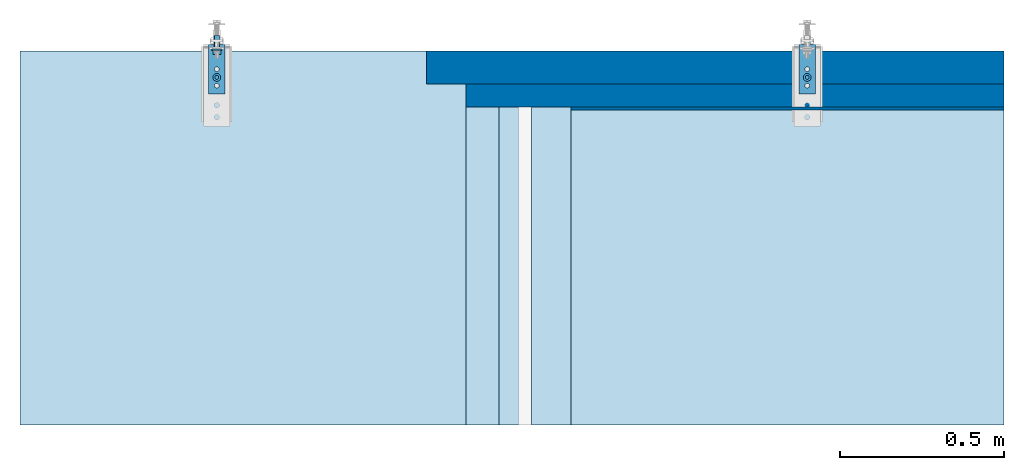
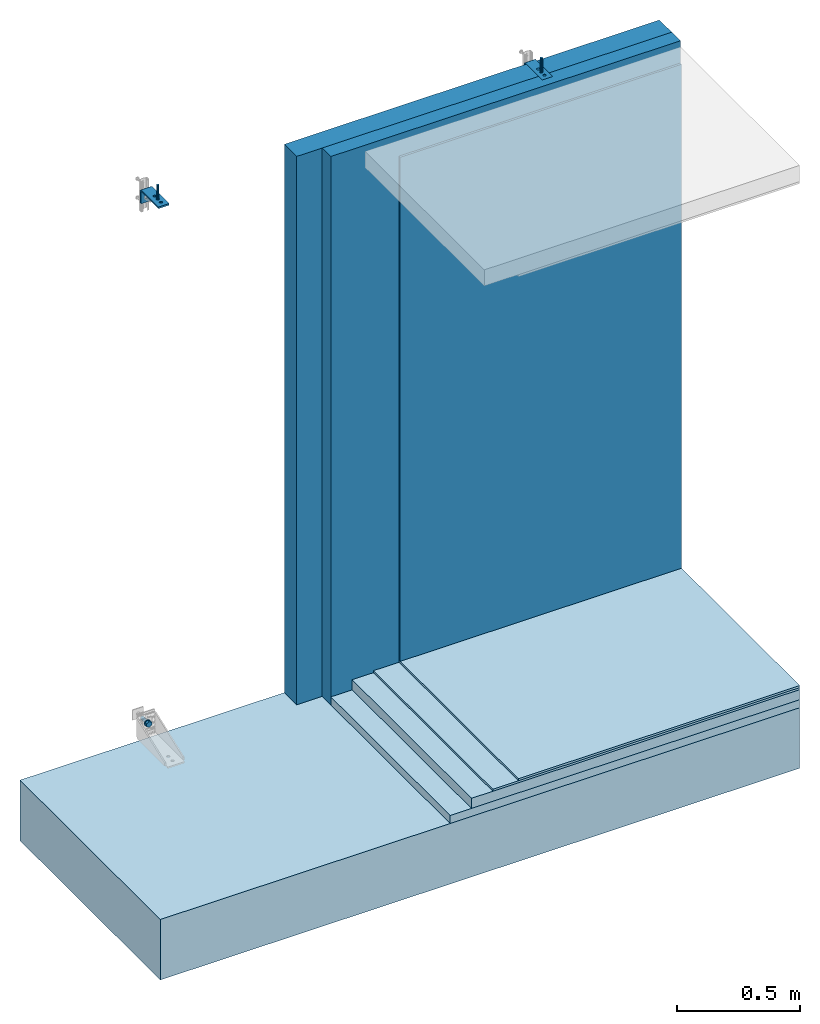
# One storey, part 1 of 7: 6 assemblies, 5 slabs, 3 walls, 8 openings.
"""IFC2X3 building model written with IfcOpenShell, lengths in metres."""

import ifcopenshell
import ifcopenshell.guid

model = None  # the IFC model being written
_history = None  # IfcOwnerHistory: only IFC2X3 demands one
_inside = {}  # id of a spatial element -> (the spatial element, [elements in it])
_under = {}  # id of a project, library or spatial element -> (it, [spatial elements below it])
_declared = {}  # id of a project -> (the project, [libraries it declares])
_typed = {}  # id of a type object -> (the type object, [elements of that type])
_made_of = {}  # id of a material, layer set ... -> (it, [elements and type objects made of it])


def new_model(schema):
    """Start an empty IFC model of exactly this schema.

    Asked for "IFC4X3", IfcOpenShell would pick the latest addendum, in which some entities
    have other attributes; the version numbers below select the first issue.
    IFC2X3 requires an IfcOwnerHistory on every rooted entity: one is made here for all.
    """
    global model, _history
    if schema == "IFC4X3":
        model = ifcopenshell.file(schema_version=(4, 3, 0, 0))
    else:
        model = ifcopenshell.file(schema=schema)
    _inside.clear()
    _under.clear()
    _declared.clear()
    _typed.clear()
    _made_of.clear()
    _history = None
    if model.schema == "IFC2X3":
        org = make("IfcOrganization", Name="unknown")
        user = make(
            "IfcPersonAndOrganization",
            ThePerson=make("IfcPerson", FamilyName="unknown"),
            TheOrganization=org,
        )
        app = make(
            "IfcApplication",
            ApplicationDeveloper=org,
            Version="unknown",
            ApplicationFullName="unknown",
            ApplicationIdentifier="unknown",
        )
        _history = make(
            "IfcOwnerHistory",
            OwningUser=user,
            OwningApplication=app,
            ChangeAction="ADDED",
            CreationDate=0,
        )
    return model


def make(cls, **values):
    """One entity of the class cls with the attributes given. An attribute that is None is left unset."""
    return model.create_entity(
        cls, **{name: value for name, value in values.items() if value is not None}
    )


def entity(cls, *values):
    """Any entity or typed value of the class cls, its attributes in the order of the schema. None: left unset."""
    e = model.create_entity(cls)
    for i, value in enumerate(values):
        if value is not None:
            e[i] = value
    return e


def rooted(cls, **values):
    """An entity with a GlobalId (a new one), such as an element, a storey or a relation."""
    return make(cls, GlobalId=ifcopenshell.guid.new(), OwnerHistory=_history, **values)


def si_unit(unit_type, name, prefix=None):
    """IfcSIUnit, for example si_unit("LENGTHUNIT", "METRE", prefix="MILLI")."""
    return make("IfcSIUnit", UnitType=unit_type, Prefix=prefix, Name=name)


def converted_unit(unit_type, name, factor, base, dimensions=None, offset=None):
    """IfcConversionBasedUnit, such as the inch: factor (a typed value) times the base unit."""
    return make(
        "IfcConversionBasedUnit"
        if offset is None
        else "IfcConversionBasedUnitWithOffset",
        ConversionOffset=offset,
        Dimensions=None
        if dimensions is None
        else entity("IfcDimensionalExponents", *dimensions),
        UnitType=unit_type,
        Name=name,
        ConversionFactor=make(
            "IfcMeasureWithUnit", ValueComponent=factor, UnitComponent=base
        ),
    )


def derived_unit(unit_type, elements):
    """IfcDerivedUnit: a product of units, each with its exponent."""
    return make(
        "IfcDerivedUnit",
        Elements=[
            make("IfcDerivedUnitElement", Unit=unit, Exponent=power)
            for unit, power in elements
        ],
        UnitType=unit_type,
    )


def assignment(units):
    """IfcUnitAssignment: the units of a project."""
    return None if units is None else make("IfcUnitAssignment", Units=units)


def point(xyz):
    """IfcCartesianPoint."""
    return None if xyz is None else make("IfcCartesianPoint", Coordinates=xyz)


def direction(xyz):
    """IfcDirection."""
    return None if xyz is None else make("IfcDirection", DirectionRatios=xyz)


def frame(location, z_axis=None, x_axis=None):
    """IfcAxis2Placement3D, a coordinate frame: its origin and axes. An axis left out is left unset."""
    return make(
        "IfcAxis2Placement3D",
        Location=point(location),
        Axis=direction(z_axis),
        RefDirection=direction(x_axis),
    )


def frame_2d(location, x_axis=None):
    """IfcAxis2Placement2D, a coordinate frame in the plane: its origin and x axis."""
    return make(
        "IfcAxis2Placement2D", Location=point(location), RefDirection=direction(x_axis)
    )


def origin():
    """The frame at (0, 0, 0) with its axes left unset."""
    return frame((0.0, 0.0, 0.0))


def origin_2d_with_axis():
    """The frame at (0, 0) in the plane with the x axis (1, 0) written out."""
    return frame_2d((0.0, 0.0), x_axis=(1.0, 0.0))


def place(relative_to, where):
    """IfcLocalPlacement: puts the frame where relative to a parent placement (None: the world)."""
    return make(
        "IfcLocalPlacement", PlacementRelTo=relative_to, RelativePlacement=where
    )


def context(
    kind, dimensions, precision=None, world=None, true_north=None, identifier=None
):
    """IfcGeometricRepresentationContext, for example the 3D "Model" context."""
    return make(
        "IfcGeometricRepresentationContext",
        ContextIdentifier=identifier,
        ContextType=kind,
        CoordinateSpaceDimension=dimensions,
        Precision=precision,
        WorldCoordinateSystem=world,
        TrueNorth=true_north,
    )


def subcontext(parent, identifier, kind, view, scale=None):
    """IfcGeometricRepresentationSubContext, for example "Body" below "Model"."""
    return make(
        "IfcGeometricRepresentationSubContext",
        ContextIdentifier=identifier,
        ContextType=kind,
        ParentContext=parent,
        TargetScale=scale,
        TargetView=view,
    )


def project(units=None, contexts=None):
    """IfcProject with its units and contexts."""
    return rooted(
        "IfcProject",
        Name="project",
        RepresentationContexts=contexts,
        UnitsInContext=assignment(units),
    )


def spatial(cls, under=None, at=None, **own):
    """A site, building, storey or space (cls), placed at a placement, below another one or the project."""
    s = rooted(cls, ObjectPlacement=at, **own)
    if under is not None:
        _under.setdefault(under.id(), (under, []))[1].append(s)
    return s


def polyline(points):
    """IfcPolyline through the points."""
    return make("IfcPolyline", Points=[point(p) for p in points])


def circle_curve(where, radius):
    """IfcCircle in the frame where."""
    return make("IfcCircle", Position=where, Radius=radius)


def parameter(value):
    """IfcParameterValue: where a trimmed curve begins or ends, as a parameter of its basis curve."""
    return model.create_entity("IfcParameterValue", value)


def trimmed(basis, trim1, trim2, sense, master):
    """IfcTrimmedCurve: the piece of a basis curve between two trims."""
    return make(
        "IfcTrimmedCurve",
        BasisCurve=basis,
        Trim1=trim1,
        Trim2=trim2,
        SenseAgreement=sense,
        MasterRepresentation=master,
    )


def segment(curve, same_sense, transition):
    """IfcCompositeCurveSegment."""
    return make(
        "IfcCompositeCurveSegment",
        Transition=transition,
        SameSense=same_sense,
        ParentCurve=curve,
    )


def composite_curve(segments, self_intersect=None):
    """IfcCompositeCurve: segments joined end to end."""
    return make("IfcCompositeCurve", Segments=segments, SelfIntersect=self_intersect)


def profile(cls, at=None, kind="AREA", **sizes):
    """A parametric profile (cls). Its sizes go by their IFC names, for example OverallWidth=200.0."""
    return make(cls, ProfileType=kind, Position=at, **sizes)


def rectangle(**sizes):
    """IfcRectangleProfileDef."""
    return profile("IfcRectangleProfileDef", **sizes)


def circle(**sizes):
    """IfcCircleProfileDef."""
    return profile("IfcCircleProfileDef", **sizes)


def hollow_circle(**sizes):
    """IfcCircleHollowProfileDef."""
    return profile("IfcCircleHollowProfileDef", **sizes)


def outline(outer, holes=None, kind="AREA"):
    """IfcArbitraryClosedProfileDef: a profile drawn as a closed curve; with holes, ...WithVoids."""
    if holes is None:
        return make("IfcArbitraryClosedProfileDef", ProfileType=kind, OuterCurve=outer)
    return make(
        "IfcArbitraryProfileDefWithVoids",
        ProfileType=kind,
        OuterCurve=outer,
        InnerCurves=holes,
    )


def extrude(swept, where, along, depth):
    """IfcExtrudedAreaSolid: the profile swept, set in the frame where, extruded along a direction by depth."""
    return make(
        "IfcExtrudedAreaSolid",
        SweptArea=swept,
        Position=where,
        ExtrudedDirection=direction(along),
        Depth=depth,
    )


def shape(context_of_items, identifier, shape_type, items):
    """IfcShapeRepresentation: the items that make up one representation, for example the "Body"."""
    return make(
        "IfcShapeRepresentation",
        ContextOfItems=context_of_items,
        RepresentationIdentifier=identifier,
        RepresentationType=shape_type,
        Items=items,
    )


def source(mapping_origin, context_of_items, identifier, shape_type, items):
    """IfcRepresentationMap: a shape defined once, which mapped items show again and again."""
    return make(
        "IfcRepresentationMap",
        MappingOrigin=mapping_origin,
        MappedRepresentation=shape(context_of_items, identifier, shape_type, items),
    )


def transform(
    local_origin,
    x_axis=None,
    y_axis=None,
    z_axis=None,
    scale=None,
    scale2=None,
    scale3=None,
    uniform=True,
):
    """IfcCartesianTransformationOperator3D, or its non-uniform kind. x_axis, y_axis, z_axis: its Axis1, 2, 3."""
    if uniform:
        return make(
            "IfcCartesianTransformationOperator3D",
            Axis1=direction(x_axis),
            Axis2=direction(y_axis),
            LocalOrigin=point(local_origin),
            Scale=scale,
            Axis3=direction(z_axis),
        )
    return make(
        "IfcCartesianTransformationOperator3DnonUniform",
        Axis1=direction(x_axis),
        Axis2=direction(y_axis),
        LocalOrigin=point(local_origin),
        Scale=scale,
        Axis3=direction(z_axis),
        Scale2=scale2,
        Scale3=scale3,
    )


def mapped(mapping_source, mapping_target):
    """IfcMappedItem: shows the shape of a source again, moved by a transform."""
    return make(
        "IfcMappedItem", MappingSource=mapping_source, MappingTarget=mapping_target
    )


def material(Name=None, Category=None):
    """IfcMaterial."""
    return make("IfcMaterial", Name=Name, Category=Category)


def layer(
    of_material, thickness, ventilated=None, Name=None, Category=None, Priority=None
):
    """IfcMaterialLayer: one layer of a wall or slab, of a material (None: an air gap)."""
    return make(
        "IfcMaterialLayer",
        Material=of_material,
        LayerThickness=thickness,
        IsVentilated=ventilated,
        Name=Name,
        Category=Category,
        Priority=Priority,
    )


def layer_set(layers, Name=None):
    """IfcMaterialLayerSet."""
    return make("IfcMaterialLayerSet", MaterialLayers=layers, LayerSetName=Name)


def layer_usage(for_layer_set, set_direction, sense, offset, extent=None):
    """IfcMaterialLayerSetUsage: how a layer set lies in its element."""
    return make(
        "IfcMaterialLayerSetUsage",
        ForLayerSet=for_layer_set,
        LayerSetDirection=set_direction,
        DirectionSense=sense,
        OffsetFromReferenceLine=offset,
        ReferenceExtent=extent,
    )


def made_of(thing, what):
    """Note that an element or type object is made of a material, layer set ...; save() writes the relation."""
    if what is not None:
        _made_of.setdefault(what.id(), (what, []))[1].append(thing)
    return thing


def type_object(cls, material=None, **own):
    """A type object (cls), such as IfcWallType, which elements share."""
    return made_of(rooted(cls, **own), material)


def type_shapes(of_type, sources):
    """Give a type object the sources (RepresentationMaps) that its elements show as mapped items."""
    of_type.RepresentationMaps = sources


def element(
    cls,
    number,
    at=None,
    inside=None,
    cuts=None,
    type_object=None,
    material=None,
    context=None,
    identifier="Body",
    shape_type=None,
    held_by="IfcProductDefinitionShape",
    body=None,
    shapes=None,
    **own,
):
    """One element of the class cls, such as IfcWall. Its Tag is "e" and its number.

    at: its placement. inside: the storey or other place that contains it. cuts: it is an
    opening in that element (IfcRelVoidsElement). A single representation is given by context,
    identifier, shape_type and body (its items); several are given by shapes. held_by: the class
    of the entity that holds the representations. save() writes the other relations.
    """
    e = rooted(cls, Tag="e%d" % number, ObjectPlacement=at, **own)
    if body is not None:
        shapes = [shape(context, identifier, shape_type, body)]
    if shapes is not None:
        e.Representation = make(held_by, Representations=shapes)
    if inside is not None:
        _inside.setdefault(inside.id(), (inside, []))[1].append(e)
    if cuts is not None:
        rooted(
            "IfcRelVoidsElement", RelatingBuildingElement=cuts, RelatedOpeningElement=e
        )
    if type_object is not None:
        _typed.setdefault(type_object.id(), (type_object, []))[1].append(e)
    return made_of(e, material)


def aggregate(whole, parts):
    """IfcRelAggregates: a whole, such as a stair, and the parts it consists of."""
    return rooted("IfcRelAggregates", RelatingObject=whole, RelatedObjects=parts)


def save(model, path):
    """Write the relations noted so far, then the file.

    IfcRelAggregates (storeys below a building ...), IfcRelContainedInSpatialStructure (elements
    in a storey), IfcRelDefinesByType, IfcRelAssociatesMaterial and IfcRelDeclares: one each for
    every whole, place, type object, material and project.
    """
    for whole, parts in _under.values():
        aggregate(whole, parts)
    for where, things in _inside.values():
        rooted(
            "IfcRelContainedInSpatialStructure",
            RelatedElements=things,
            RelatingStructure=where,
        )
    for kind, things in _typed.values():
        rooted("IfcRelDefinesByType", RelatedObjects=things, RelatingType=kind)
    for what, things in _made_of.values():
        rooted("IfcRelAssociatesMaterial", RelatedObjects=things, RelatingMaterial=what)
    for by, libraries in _declared.values():
        rooted("IfcRelDeclares", RelatingContext=by, RelatedDefinitions=libraries)
    model.write(path)


model = new_model("IFC2X3")

# Units and contexts
model_context = context("Model", 3, precision=1e-05, world=origin(), true_north=direction((6.123031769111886e-17, 1.0)))
body_context = subcontext(model_context, "Body", "Model", "MODEL_VIEW")
ifc_project = project(units=[si_unit("LENGTHUNIT", "METRE"), si_unit("AREAUNIT", "SQUARE_METRE"), converted_unit("PLANEANGLEUNIT", "DEGREE", entity("IfcPlaneAngleMeasure", 0.017453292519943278), si_unit("PLANEANGLEUNIT", "RADIAN"), dimensions=[0, 0, 0, 0, 0, 0, 0]), si_unit("VOLUMEUNIT", "CUBIC_METRE"), derived_unit("THERMALTRANSMITTANCEUNIT", [(si_unit("MASSUNIT", "GRAM", prefix="KILO"), 1), (si_unit("THERMODYNAMICTEMPERATUREUNIT", "KELVIN"), -1), (si_unit("TIMEUNIT", "SECOND"), -3)]), derived_unit("USERDEFINED", [(si_unit("MASSUNIT", "GRAM", prefix="KILO"), 1), (si_unit("THERMODYNAMICTEMPERATUREUNIT", "KELVIN"), -1), (si_unit("TIMEUNIT", "SECOND"), -2)]), derived_unit("THERMALRESISTANCEUNIT", [(si_unit("MASSUNIT", "GRAM", prefix="KILO"), -1), (si_unit("TIMEUNIT", "SECOND"), 3), (si_unit("THERMODYNAMICTEMPERATUREUNIT", "KELVIN"), 1)]), derived_unit("MASSDENSITYUNIT", [(si_unit("MASSUNIT", "GRAM", prefix="KILO"), 1), (si_unit("LENGTHUNIT", "METRE"), -3)]), derived_unit("VAPORPERMEABILITYUNIT", [(si_unit("LENGTHUNIT", "METRE"), -1), (si_unit("TIMEUNIT", "SECOND"), 1)]), derived_unit("USERDEFINED", [(si_unit("MASSUNIT", "GRAM", prefix="KILO"), 1), (si_unit("TIMEUNIT", "SECOND"), -3), (si_unit("LENGTHUNIT", "METRE"), 3), (si_unit("ELECTRICCURRENTUNIT", "AMPERE"), -2)]), si_unit("PRESSUREUNIT", "PASCAL")], contexts=[model_context])

# Site, building, storey
site_placement = place(None, origin())
site = spatial("IfcSite", under=ifc_project, at=site_placement, Name="Default", CompositionType="ELEMENT")
building_placement = place(site_placement, origin())
building = spatial("IfcBuilding", under=site, at=building_placement, CompositionType="ELEMENT")
storey_placement = place(building_placement, origin())
storey = spatial("IfcBuildingStorey", under=building, at=storey_placement, Name="L0", CompositionType="ELEMENT", Elevation=0.0)

# Slabs
ifc_material_1 = material(Name="DPG_Losa Principal Obra")
ifc_layer_1 = layer(ifc_material_1, 0.30000000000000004)
ifc_layer_set_1 = layer_set([ifc_layer_1], Name="Suelo:DPG_Losa Principal Obra")
ifc_layer_usage_1 = layer_usage(ifc_layer_set_1, "AXIS3", "POSITIVE", 0.0)
slab_type_1 = type_object("IfcSlabType", Name="Suelo:DPG_Losa Principal Obra", PredefinedType="FLOOR", material=ifc_layer_set_1)
slab_1_placement = place(storey_placement, origin())
element("IfcSlab", 1, at=slab_1_placement, inside=storey, type_object=slab_type_1, material=ifc_layer_usage_1, Name="Suelo:DPG_Losa Principal Obra", ObjectType="Suelo:DPG_Losa Principal Obra", PredefinedType="FLOOR", context=body_context, shape_type="SweptSolid", body=[
    extrude(rectangle(XDim=1.140000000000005, YDim=3.0000000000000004, at=origin_2d_with_axis()), frame((6.3877202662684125, 15.364530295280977, 0.0), z_axis=(0.0, 0.0, -1.0), x_axis=(0.0, 1.0, 0.0)), (0.0, 0.0, 1.0), 0.30000000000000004),
])
ifc_material_2 = material(Name="Lana de roca")
ifc_layer_2 = layer(ifc_material_2, 0.04)
ifc_layer_set_2 = layer_set([ifc_layer_2], Name="Suelo:DPG_Aislamiento Suelo")
ifc_layer_usage_2 = layer_usage(ifc_layer_set_2, "AXIS3", "POSITIVE", 0.0)
slab_type_2 = type_object("IfcSlabType", Name="Suelo:DPG_Aislamiento Suelo", PredefinedType="FLOOR", material=ifc_layer_set_2)
slab_2_placement = place(storey_placement, origin())
element("IfcSlab", 2, at=slab_2_placement, inside=storey, type_object=slab_type_2, material=ifc_layer_usage_2, Name="Suelo:DPG_Aislamiento Suelo", ObjectType="Suelo:DPG_Aislamiento Suelo", PredefinedType="FLOOR", context=body_context, shape_type="SweptSolid", body=[
    extrude(rectangle(XDim=0.9699999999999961, YDim=1.6399999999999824, at=origin_2d_with_axis()), frame((7.067720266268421, 15.279530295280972, 0.04), z_axis=(0.0, 0.0, -1.0), x_axis=(0.0, 1.0, 0.0)), (0.0, 0.0, 1.0), 0.04),
])
ifc_material_3 = material(Name="Hormigón, ligero")
ifc_layer_3 = layer(ifc_material_3, 0.05)
ifc_layer_set_3 = layer_set([ifc_layer_3], Name="Suelo:DPG_Recrecido")
ifc_layer_usage_3 = layer_usage(ifc_layer_set_3, "AXIS3", "POSITIVE", 0.0)
slab_type_3 = type_object("IfcSlabType", Name="Suelo:DPG_Recrecido", PredefinedType="FLOOR", material=ifc_layer_set_3)
slab_3_placement = place(storey_placement, origin())
element("IfcSlab", 3, at=slab_3_placement, inside=storey, type_object=slab_type_3, material=ifc_layer_usage_3, Name="Suelo:DPG_Recrecido", ObjectType="Suelo:DPG_Recrecido", PredefinedType="FLOOR", context=body_context, shape_type="SweptSolid", body=[
    extrude(rectangle(XDim=0.9699999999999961, YDim=1.5399999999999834, at=origin_2d_with_axis()), frame((7.11772026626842, 15.279530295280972, 0.09), z_axis=(0.0, 0.0, -1.0), x_axis=(0.0, 1.0, 0.0)), (0.0, 0.0, 1.0), 0.05),
])
ifc_material_4 = material(Name="Hormigón - Hormigón moldeado in situ")
ifc_layer_4 = layer(ifc_material_4, 0.01)
ifc_layer_set_4 = layer_set([ifc_layer_4], Name="Suelo:DPG_Pegamento cemento")
ifc_layer_usage_4 = layer_usage(ifc_layer_set_4, "AXIS3", "POSITIVE", 0.0)
slab_type_4 = type_object("IfcSlabType", Name="Suelo:DPG_Pegamento cemento", PredefinedType="FLOOR", material=ifc_layer_set_4)
slab_4_placement = place(storey_placement, origin())
element("IfcSlab", 4, at=slab_4_placement, inside=storey, type_object=slab_type_4, material=ifc_layer_usage_4, Name="Suelo:DPG_Pegamento cemento", ObjectType="Suelo:DPG_Pegamento cemento", PredefinedType="FLOOR", context=body_context, shape_type="SweptSolid", body=[
    extrude(rectangle(XDim=0.969999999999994, YDim=1.4399999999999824, at=frame_2d((1.0824674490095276e-15, 0.0), x_axis=(1.0, 0.0))), frame((7.167720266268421, 15.27953029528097, 0.09999999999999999), z_axis=(0.0, 0.0, -1.0), x_axis=(0.0, 1.0, 0.0)), (0.0, 0.0, 1.0), 0.009999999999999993),
])
ifc_material_5 = material(Name="Azulejo, porcelana, 6 pulg.")
ifc_layer_5 = layer(ifc_material_5, 0.01)
ifc_layer_set_5 = layer_set([ifc_layer_5], Name="Suelo:DPG_Ceramica")
ifc_layer_usage_5 = layer_usage(ifc_layer_set_5, "AXIS3", "POSITIVE", 0.0)
slab_type_5 = type_object("IfcSlabType", Name="Suelo:DPG_Ceramica", PredefinedType="FLOOR", material=ifc_layer_set_5)
slab_5_placement = place(storey_placement, origin())
element("IfcSlab", 5, at=slab_5_placement, inside=storey, type_object=slab_type_5, material=ifc_layer_usage_5, Name="Suelo:DPG_Ceramica", ObjectType="Suelo:DPG_Ceramica", PredefinedType="FLOOR", context=body_context, shape_type="SweptSolid", body=[
    extrude(rectangle(XDim=0.9699999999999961, YDim=1.3199999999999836, at=origin_2d_with_axis()), frame((7.22772026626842, 15.279530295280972, 0.10999999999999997), z_axis=(0.0, 0.0, -1.0), x_axis=(0.0, 1.0, 0.0)), (0.0, 0.0, 1.0), 0.009999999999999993),
])

# Walls
ifc_layer_6 = layer(ifc_material_2, 0.1)
ifc_layer_set_6 = layer_set([ifc_layer_6], Name="Muro básico:DPG_Aislamiento")
ifc_layer_usage_6 = layer_usage(ifc_layer_set_6, "AXIS2", "NEGATIVE", 0.05)
wall_type_1 = type_object("IfcWallType", Name="Muro básico:DPG_Aislamiento", PredefinedType="STANDARD", material=ifc_layer_set_6)
wall_1_placement = place(storey_placement, frame((6.12772026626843, 15.884530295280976, 0.0)))
element("IfcWallStandardCase", 6, at=wall_1_placement, inside=storey, type_object=wall_type_1, material=ifc_layer_usage_6, Name="Muro básico:DPG_Aislamiento", ObjectType="Muro básico:DPG_Aislamiento", context=body_context, shape_type="SweptSolid", body=[
    extrude(rectangle(XDim=1.759999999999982, YDim=0.09999999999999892, at=frame_2d((0.879999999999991, 2.0816681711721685e-16), x_axis=(-1.0, 0.0))), origin(), (0.0, 0.0, 1.0), 2.7199999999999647),
])
ifc_material_6 = material(Name="Ladrillo, común, marrón")
ifc_layer_7 = layer(ifc_material_6, 0.07)
ifc_layer_set_7 = layer_set([ifc_layer_7], Name="Muro básico:DPG_Ladrillo")
ifc_layer_usage_7 = layer_usage(ifc_layer_set_7, "AXIS2", "NEGATIVE", 0.035)
wall_type_2 = type_object("IfcWallType", Name="Muro básico:DPG_Ladrillo", PredefinedType="STANDARD", material=ifc_layer_set_7)
wall_2_placement = place(storey_placement, frame((6.24772026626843, 15.799530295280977, 0.0)))
element("IfcWallStandardCase", 7, at=wall_2_placement, inside=storey, type_object=wall_type_2, material=ifc_layer_usage_7, Name="Muro básico:DPG_Ladrillo", ObjectType="Muro básico:DPG_Ladrillo", context=body_context, shape_type="SweptSolid", body=[
    extrude(rectangle(XDim=1.6399999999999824, YDim=0.07000000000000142, at=frame_2d((0.8199999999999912, -7.806255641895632e-16), x_axis=(-1.0, 0.0))), origin(), (0.0, 0.0, 1.0), 2.72),
])
ifc_material_7 = material(Name="Enlucido")
ifc_layer_8 = layer(ifc_material_7, 0.01)
ifc_layer_set_8 = layer_set([ifc_layer_8], Name="Muro básico:DPG_Enlucido")
ifc_layer_usage_8 = layer_usage(ifc_layer_set_8, "AXIS2", "NEGATIVE", 0.005000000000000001)
wall_type_3 = type_object("IfcWallType", Name="Muro básico:DPG_Enlucido", PredefinedType="STANDARD", material=ifc_layer_set_8)
wall_3_placement = place(storey_placement, frame((6.567720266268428, 15.759530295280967, 0.1099999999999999)))
element("IfcWallStandardCase", 8, at=wall_3_placement, inside=storey, type_object=wall_type_3, material=ifc_layer_usage_8, Name="Muro básico:DPG_Enlucido", ObjectType="Muro básico:DPG_Enlucido", context=body_context, shape_type="SweptSolid", body=[
    extrude(rectangle(XDim=1.3199999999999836, YDim=0.010000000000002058, at=frame_2d((0.6599999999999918, 0.0), x_axis=(-1.0, 0.0))), origin(), (0.0, 0.0, 1.0), 2.5),
])

# Assemblies
ifc_material_8 = material(Name="REC_Acero, S 275JR (Zincado)")
type_product_1 = type_object("IfcTypeProduct", Name="REC-A-M16:A-M16", material=ifc_material_8)
shared_shape_1 = source(origin(), body_context, "Body", "SweptSolid", [
    extrude(hollow_circle(Radius=0.015, WallThickness=0.006499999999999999, at=frame_2d((1.062573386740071e-19, -2.4233168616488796e-17), x_axis=(1.0, 0.0))), origin(), (0.0, 0.0, 1.0), 0.003),
])
type_shapes(type_product_1, [shared_shape_1])
assembly_1_placement = place(storey_placement, frame((5.487720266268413, 15.939905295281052, 0.07200000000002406), z_axis=(0.0, -1.0, 0.0), x_axis=(1.0, 0.0, 0.0)))
element("IfcElementAssembly", 9, at=assembly_1_placement, inside=storey, type_object=type_product_1, material=ifc_material_8, Name="REC-A-M16:A-M16", ObjectType="REC-A-M16:A-M16", AssemblyPlace="NOTDEFINED", PredefinedType="NOTDEFINED", context=body_context, shape_type="MappedRepresentation", body=[
    mapped(shared_shape_1, transform((0.0, 0.0, 0.0), scale=1.0)),
])
type_product_2 = type_object("IfcTypeProduct", Name="REC-M16-45:M16-45", material=ifc_material_8)
shared_shape_2 = source(origin(), body_context, "Body", "SweptSolid", [
    extrude(outline(polyline([(-0.0070686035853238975, -0.012243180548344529), (0.007068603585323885, -0.012243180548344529), (0.014137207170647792, 0.0), (0.007068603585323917, 0.012243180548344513), (-0.007068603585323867, 0.012243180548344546), (-0.014137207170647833, 0.0), (-0.0070686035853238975, -0.012243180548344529)])), origin(), (0.0, 0.0, 1.0), 0.013000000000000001),
    extrude(circle(Radius=0.008, at=frame_2d((-5.2874371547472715e-19, -1.2924356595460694e-17), x_axis=(1.0, 0.0))), frame((0.0, 0.0, -0.045000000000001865)), (0.0, 0.0, 1.0), 0.045000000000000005),
])
type_shapes(type_product_2, [shared_shape_2])
assembly_2_placement = place(storey_placement, frame((5.4877202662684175, 15.936905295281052, 0.07200000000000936), z_axis=(0.0, -1.0, 0.0), x_axis=(0.0, 0.0, 1.0)))
element("IfcElementAssembly", 10, at=assembly_2_placement, inside=storey, type_object=type_product_2, material=ifc_material_8, Name="REC-M16-45:M16-45", ObjectType="REC-M16-45:M16-45", AssemblyPlace="NOTDEFINED", PredefinedType="NOTDEFINED", context=body_context, shape_type="MappedRepresentation", body=[
    mapped(shared_shape_2, transform((0.0, 0.0, 0.0), scale=1.0)),
])
type_product_3 = type_object("IfcTypeProduct", Name="REC-AEM12-100:AEM12-100", material=ifc_material_8)
shared_shape_3 = source(origin(), body_context, "Body", "SweptSolid", [
    extrude(outline(polyline([(-0.005890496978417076, -0.010202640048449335), (0.005890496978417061, -0.010202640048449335), (0.01178099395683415, 0.0), (0.005890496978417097, 0.010202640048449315), (-0.0058904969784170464, 0.010202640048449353), (-0.011780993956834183, 0.0), (-0.005890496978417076, -0.010202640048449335)]), holes=[composite_curve([segment(trimmed(circle_curve(frame_2d((6.043164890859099e-09, 0.0), x_axis=(1.0, 0.0)), 0.005999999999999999), [parameter(3.053332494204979e-13)], [parameter(180.0)], True, "PARAMETER"), False, "CONTINUOUS"), segment(trimmed(circle_curve(frame_2d((6.043164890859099e-09, 0.0), x_axis=(1.0, 0.0)), 0.005999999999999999), [parameter(179.99999999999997)], [parameter(0.0)], True, "PARAMETER"), False, "CONTINUOUS")], self_intersect=False)]), frame((-6.043164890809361e-09, 0.0, 0.002399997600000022)), (0.0, 0.0, 1.0), 0.009600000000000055),
    extrude(hollow_circle(Radius=0.011999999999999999, WallThickness=0.004999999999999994, at=frame_2d((1.062573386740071e-19, -1.9386534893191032e-17), x_axis=(1.0, 0.0))), origin(), (0.0, 0.0, 1.0), 0.002399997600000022),
    extrude(circle(Radius=0.006, at=frame_2d((1.3218592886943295e-19, -9.69326744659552e-18), x_axis=(1.0, 0.0))), frame((0.0, 0.0, -0.05)), (0.0, 0.0, 1.0), 0.07),
    extrude(circle(Radius=0.006, at=frame_2d((1.3218592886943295e-19, -9.69326744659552e-18), x_axis=(1.0, 0.0))), frame((0.0, 0.0, -0.08)), (0.0, 0.0, 1.0), 0.027000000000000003),
    extrude(circle(Radius=0.005, at=frame_2d((1.3218592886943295e-19, -8.077722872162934e-18), x_axis=(1.0, 0.0))), frame((0.0, 0.0, -0.053)), (0.0, 0.0, 1.0), 0.002999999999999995),
])
type_shapes(type_product_3, [shared_shape_3])
assembly_3_placement = place(storey_placement, frame((5.487720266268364, 15.854530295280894, 2.711999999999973), z_axis=(0.0, 0.0, -1.0), x_axis=(-1.0, 0.0, 0.0)))
element("IfcElementAssembly", 11, at=assembly_3_placement, inside=storey, type_object=type_product_3, material=ifc_material_8, Name="REC-AEM12-100:AEM12-100", ObjectType="REC-AEM12-100:AEM12-100", AssemblyPlace="NOTDEFINED", PredefinedType="NOTDEFINED", context=body_context, shape_type="MappedRepresentation", body=[
    mapped(shared_shape_3, transform((0.0, 0.0, 0.0), scale=1.0)),
])
type_product_4 = type_object("IfcTypeProduct", Name="REC-AEM12-100:AEM12-100", material=ifc_material_8)
shared_shape_4 = source(origin(), body_context, "Body", "SweptSolid", [
    extrude(outline(polyline([(-0.005890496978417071, -0.01020264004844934), (0.005890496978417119, -0.01020264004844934), (0.01178099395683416, 0.0), (0.005890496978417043, 0.010202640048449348), (-0.0058904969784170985, 0.010202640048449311), (-0.011780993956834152, 0.0), (-0.005890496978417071, -0.01020264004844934)]), holes=[composite_curve([segment(trimmed(circle_curve(frame_2d((-3.0215824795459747e-09, 5.2335342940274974e-09), x_axis=(-0.49999999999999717, 0.8660254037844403)), 0.005999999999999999), [parameter(0.0)], [parameter(180.00000000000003)], True, "PARAMETER"), False, "CONTINUOUS"), segment(trimmed(circle_curve(frame_2d((-3.0215824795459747e-09, 5.2335342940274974e-09), x_axis=(-0.49999999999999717, 0.8660254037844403)), 0.005999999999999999), [parameter(180.0)], [parameter(359.9999999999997)], True, "PARAMETER"), False, "CONTINUOUS")], self_intersect=False)]), frame((-6.04316488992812e-09, 0.0, 0.002399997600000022), z_axis=(0.0, 0.0, 1.0), x_axis=(-0.4999999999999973, -0.8660254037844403, 0.0)), (0.0, 0.0, 1.0), 0.009600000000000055),
    extrude(hollow_circle(Radius=0.011999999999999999, WallThickness=0.004999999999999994, at=frame_2d((1.062573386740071e-19, -5.4025493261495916e-17), x_axis=(1.0, 0.0))), origin(), (0.0, 0.0, 1.0), 0.002399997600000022),
    extrude(circle(Radius=0.006, at=frame_2d((1.3218592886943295e-19, -2.7012746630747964e-17), x_axis=(1.0, 0.0))), frame((0.0, 0.0, -0.05)), (0.0, 0.0, 1.0), 0.07),
    extrude(circle(Radius=0.006, at=frame_2d((1.3218592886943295e-19, -2.7012746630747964e-17), x_axis=(1.0, 0.0))), frame((0.0, 0.0, -0.08)), (0.0, 0.0, 1.0), 0.027000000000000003),
    extrude(circle(Radius=0.005, at=frame_2d((1.3218592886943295e-19, -2.251062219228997e-17), x_axis=(1.0, 0.0))), frame((0.0, 0.0, -0.053)), (0.0, 0.0, 1.0), 0.002999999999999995),
])
type_shapes(type_product_4, [shared_shape_4])
assembly_4_placement = place(storey_placement, frame((7.28772026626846, 15.854530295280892, 2.7120000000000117), z_axis=(0.0, 0.0, -1.0), x_axis=(1.0, 0.0, 0.0)))
element("IfcElementAssembly", 12, at=assembly_4_placement, inside=storey, type_object=type_product_4, material=ifc_material_8, Name="REC-AEM12-100:AEM12-100", ObjectType="REC-AEM12-100:AEM12-100", AssemblyPlace="NOTDEFINED", PredefinedType="NOTDEFINED", context=body_context, shape_type="MappedRepresentation", body=[
    mapped(shared_shape_4, transform((0.0, 0.0, 0.0), scale=1.0)),
])

# Assembly, openings
type_product_5 = type_object("IfcTypeProduct", Name="REC-PAA150708T14:PAA150708T14", material=ifc_material_8)
shared_shape_5 = source(origin(), body_context, "Body", "SweptSolid", [
    extrude(outline(polyline([(-0.0007712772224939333, -0.01619336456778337), (-0.057656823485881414, -0.0048781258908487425), (-0.05921754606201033, -0.012724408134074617), (-0.0023319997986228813, -0.02403964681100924), (0.0005526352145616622, -0.02425790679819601), (0.003405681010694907, -0.023779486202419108), (0.0060613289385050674, -0.02263218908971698), (0.008365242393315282, -0.020882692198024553), (0.010183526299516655, -0.018632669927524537), (0.011565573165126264, -0.015681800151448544), (0.03870097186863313, 0.12073706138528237), (0.030854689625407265, 0.12229778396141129), (0.003932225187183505, -0.013050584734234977), (0.003334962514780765, -0.01449250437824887), (0.002231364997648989, -0.015596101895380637), (0.0007894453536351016, -0.016193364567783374), (-0.0007712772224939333, -0.01619336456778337)])), frame((-0.024999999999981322, 0.014402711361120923, 0.024032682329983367), z_axis=(-1.0, 0.0, 0.0), x_axis=(0.0, -0.9807852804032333, 0.19509032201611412)), (0.0, 0.0, -1.0), 0.04999999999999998),
])
type_shapes(type_product_5, [shared_shape_5])
assembly_5_placement = place(storey_placement, frame((5.4877202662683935, 15.954530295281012, 2.719999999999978), z_axis=(0.0, -1.0, 0.0), x_axis=(-1.0, 0.0, 0.0)))
assembly_5 = element("IfcElementAssembly", 13, at=assembly_5_placement, inside=storey, type_object=type_product_5, material=ifc_material_8, Name="REC-PAA150708T14:PAA150708T14", ObjectType="REC-PAA150708T14:PAA150708T14", AssemblyPlace="NOTDEFINED", PredefinedType="NOTDEFINED", context=body_context, shape_type="MappedRepresentation", body=[
    mapped(shared_shape_5, transform((0.0, 0.0, 0.0), scale=1.0)),
])
opening_1_placement = place(storey_placement, frame((5.4877202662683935, 15.954530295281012, 2.719999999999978)))
element("IfcOpeningElement", 14, at=opening_1_placement, cuts=assembly_5, Name="REC-PAA150708T14:PAA150708T14:1", ObjectType="Opening", context=body_context, shape_type="SweptSolid", body=[
    extrude(circle(Radius=0.007, at=frame_2d((0.0, 2.133174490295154e-17), x_axis=(1.0, 0.0))), frame((0.0, 0.0, -0.04500000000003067), z_axis=(0.0, -1.0, 0.0), x_axis=(0.0, 0.0, 1.0)), (0.0, 0.0, 1.0), 0.008000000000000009),
])
opening_2_placement = place(storey_placement, frame((5.4877202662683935, 15.954530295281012, 2.719999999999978)))
element("IfcOpeningElement", 15, at=opening_2_placement, cuts=assembly_5, Name="REC-PAA150708T14:PAA150708T14:2", ObjectType="Opening", context=body_context, shape_type="SweptSolid", body=[
    extrude(circle(Radius=0.007, at=frame_2d((-1.1948495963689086e-31, 6.726405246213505e-17), x_axis=(1.0, 0.0))), frame((0.0, -0.12499999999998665, -0.008000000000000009), z_axis=(0.0, 0.0, 1.0), x_axis=(0.0, 1.0, 0.0)), (0.0, 0.0, 1.0), 0.008000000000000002),
])
opening_3_placement = place(storey_placement, frame((5.4877202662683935, 15.954530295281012, 2.719999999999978)))
element("IfcOpeningElement", 16, at=opening_3_placement, cuts=assembly_5, Name="REC-PAA150708T14:PAA150708T14:3", ObjectType="Opening", context=body_context, shape_type="SweptSolid", body=[
    extrude(circle(Radius=0.007, at=frame_2d((-1.1948495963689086e-31, 6.726405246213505e-17), x_axis=(1.0, 0.0))), frame((0.0, -0.09999999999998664, -0.00800000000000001), z_axis=(0.0, 0.0, 1.0), x_axis=(0.0, 1.0, 0.0)), (0.0, 0.0, 1.0), 0.008000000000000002),
])
opening_4_placement = place(storey_placement, frame((5.4877202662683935, 15.954530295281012, 2.719999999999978)))
element("IfcOpeningElement", 17, at=opening_4_placement, cuts=assembly_5, Name="REC-PAA150708T14:PAA150708T14:4", ObjectType="Opening", context=body_context, shape_type="SweptSolid", body=[
    extrude(circle(Radius=0.007, at=frame_2d((8.459899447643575e-18, 6.726405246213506e-17), x_axis=(1.0, 0.0))), frame((0.0, -0.07499999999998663, -0.00800000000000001), z_axis=(0.0, 0.0, 1.0), x_axis=(0.0, 1.0, 0.0)), (0.0, 0.0, 1.0), 0.008000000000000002),
])

type_product_6 = type_object("IfcTypeProduct", Name="REC-PAA150708T14:PAA150708T14", material=ifc_material_8)
shared_shape_6 = source(origin(), body_context, "Body", "SweptSolid", [
    extrude(outline(polyline([(-0.002402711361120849, 0.016032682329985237), (0.0555972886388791, 0.016032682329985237), (0.0555972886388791, 0.024032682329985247), (-0.002402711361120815, 0.024032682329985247), (-0.005274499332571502, 0.0236839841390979), (-0.007979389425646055, 0.022658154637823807), (-0.010360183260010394, 0.021014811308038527), (-0.012278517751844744, 0.018849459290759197), (-0.013622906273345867, 0.016287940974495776), (-0.014402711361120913, 0.013124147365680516), (-0.014402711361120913, -0.12596731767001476), (-0.006402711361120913, -0.12596731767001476), (-0.006402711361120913, 0.0120326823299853), (-0.006098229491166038, 0.013563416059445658), (-0.005231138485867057, 0.01486110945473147), (-0.003933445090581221, 0.015728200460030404), (-0.002402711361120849, 0.016032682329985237)])), frame((-0.024999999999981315, -0.014402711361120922, 0.024032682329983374), z_axis=(1.0, 0.0, 0.0), x_axis=(0.0, -1.0, 0.0)), (0.0, 0.0, 1.0), 0.04999999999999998),
])
type_shapes(type_product_6, [shared_shape_6])
assembly_6_placement = place(storey_placement, frame((7.287720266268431, 15.95453029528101, 2.720000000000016), z_axis=(0.0, -1.0, 0.0), x_axis=(1.0, 0.0, 0.0)))
assembly_6 = element("IfcElementAssembly", 18, at=assembly_6_placement, inside=storey, type_object=type_product_6, material=ifc_material_8, Name="REC-PAA150708T14:PAA150708T14", ObjectType="REC-PAA150708T14:PAA150708T14", AssemblyPlace="NOTDEFINED", PredefinedType="NOTDEFINED", context=body_context, shape_type="MappedRepresentation", body=[
    mapped(shared_shape_6, transform((0.0, 0.0, 0.0), scale=1.0)),
])
opening_5_placement = place(storey_placement, frame((7.287720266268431, 15.95453029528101, 2.720000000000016), z_axis=(0.0, 0.0, -1.0), x_axis=(1.0, 0.0, 0.0)))
element("IfcOpeningElement", 19, at=opening_5_placement, cuts=assembly_6, Name="REC-PAA150708T14:PAA150708T14:1", ObjectType="Opening", context=body_context, shape_type="SweptSolid", body=[
    extrude(circle(Radius=0.007, at=frame_2d((0.0, 1.1256858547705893e-18), x_axis=(1.0, 0.0))), frame((0.0, 0.0, 0.04500000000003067), z_axis=(0.0, 1.0, 0.0), x_axis=(0.0, 0.0, -1.0)), (0.0, 0.0, 1.0), 0.008000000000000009),
])
opening_6_placement = place(storey_placement, frame((7.287720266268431, 15.95453029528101, 2.720000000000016), z_axis=(0.0, 0.0, -1.0), x_axis=(1.0, 0.0, 0.0)))
element("IfcOpeningElement", 20, at=opening_6_placement, cuts=assembly_6, Name="REC-PAA150708T14:PAA150708T14:2", ObjectType="Opening", context=body_context, shape_type="SweptSolid", body=[
    extrude(circle(Radius=0.007, at=frame_2d((6.283419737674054e-33, 3.537250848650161e-18), x_axis=(1.0, 0.0))), frame((0.0, 0.12499999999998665, 0.008000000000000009), z_axis=(0.0, 0.0, -1.0), x_axis=(0.0, -1.0, 0.0)), (0.0, 0.0, 1.0), 0.008000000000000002),
])
opening_7_placement = place(storey_placement, frame((7.287720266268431, 15.95453029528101, 2.720000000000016), z_axis=(0.0, 0.0, -1.0), x_axis=(1.0, 0.0, 0.0)))
element("IfcOpeningElement", 21, at=opening_7_placement, cuts=assembly_6, Name="REC-PAA150708T14:PAA150708T14:3", ObjectType="Opening", context=body_context, shape_type="SweptSolid", body=[
    extrude(circle(Radius=0.007, at=frame_2d((6.283419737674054e-33, 3.537250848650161e-18), x_axis=(1.0, 0.0))), frame((0.0, 0.09999999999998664, 0.00800000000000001), z_axis=(0.0, 0.0, -1.0), x_axis=(0.0, -1.0, 0.0)), (0.0, 0.0, 1.0), 0.008000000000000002),
])
opening_8_placement = place(storey_placement, frame((7.287720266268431, 15.95453029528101, 2.720000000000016), z_axis=(0.0, 0.0, -1.0), x_axis=(1.0, 0.0, 0.0)))
element("IfcOpeningElement", 22, at=opening_8_placement, cuts=assembly_6, Name="REC-PAA150708T14:PAA150708T14:4", ObjectType="Opening", context=body_context, shape_type="SweptSolid", body=[
    extrude(circle(Radius=0.007, at=frame_2d((8.4598994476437e-18, 3.537250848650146e-18), x_axis=(1.0, 0.0))), frame((0.0, 0.07499999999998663, 0.00800000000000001), z_axis=(0.0, 0.0, -1.0), x_axis=(0.0, -1.0, 0.0)), (0.0, 0.0, 1.0), 0.008000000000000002),
])

save(model, "model.ifc")
